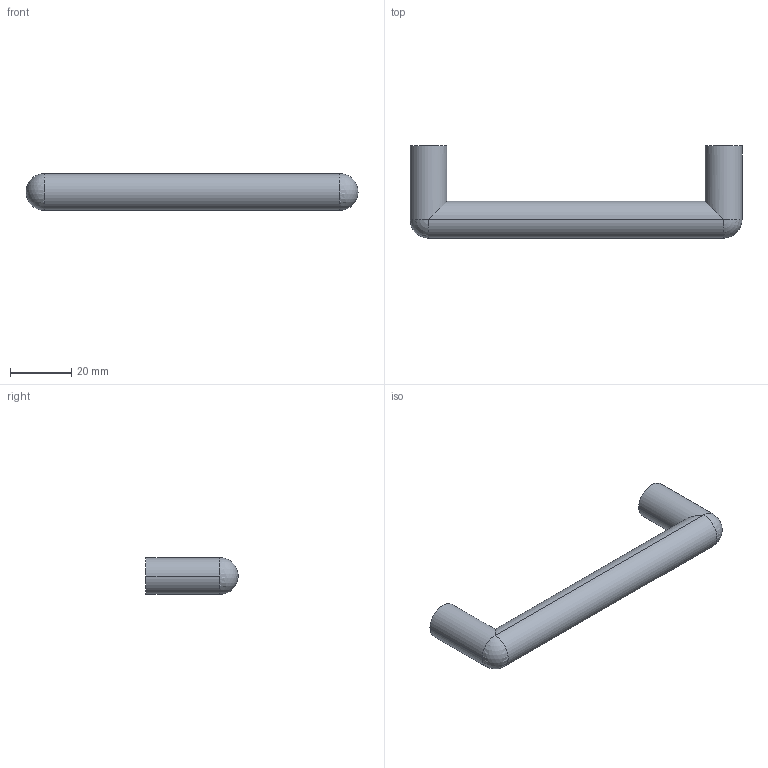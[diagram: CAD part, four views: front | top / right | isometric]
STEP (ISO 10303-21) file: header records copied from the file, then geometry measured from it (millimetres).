
FILE_DESCRIPTION( ( '' ), '1' );
FILE_NAME( 'D:/1.AUTOCAD EXPORT/Group 10/sheet_10_1/ 9070970.stp', '2013-10-17T08:18:31', ( '' ), ( '' ), ' ', ' ', ' ' );
FILE_SCHEMA( ( 'automotive_design' ) );
Length unit declared in the file: millimetre
Products named in the file (1): 1
Bounding box: 108 x 30 x 12 mm (x, y, z)
Volume: 15769.7 mm3; surface area: 5907.2 mm2
Topology: 1 solids, 1 shells, 16 faces, 36 edges, 20 vertices
Faces by surface type: cylinder 10, plane 4, sphere 2
Entity records: 838 total; most frequent: DIRECTION 88, STYLED_ITEM 69, PRESENTATION_STYLE_ASSIGNMENT 69, CARTESIAN_POINT 69, COLOUR_RGB 69, ORIENTED_EDGE 64, AXIS2_PLACEMENT_3D 39, EDGE_CURVE 32
